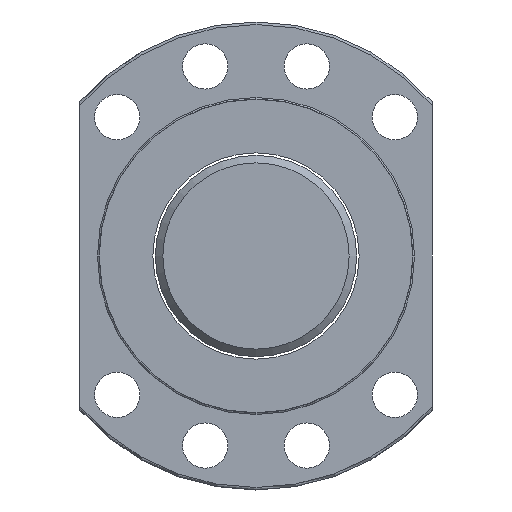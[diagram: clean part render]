
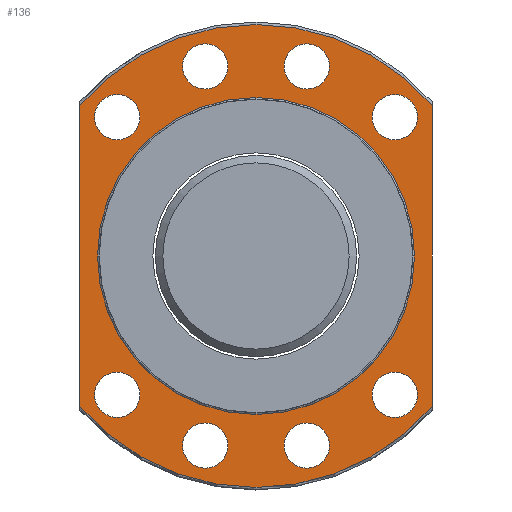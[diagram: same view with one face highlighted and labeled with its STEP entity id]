
A CAD part, left-side view. The second image highlights one B-rep face of the part: STEP entity #136.
In plain terms, the highlighted planar face has unit normal (-1, 0, 0).
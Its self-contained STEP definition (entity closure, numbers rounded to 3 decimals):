
#136=ADVANCED_FACE('',(#221,#222,#223,#224,#225,#226,#227,#228,#229,#185),
#173,.T.);
#173=PLANE('',#644);
#185=FACE_OUTER_BOUND('',#290,.T.);
#205=LINE('',#905,#213);
#206=LINE('',#909,#214);
#213=VECTOR('',#735,1.);
#214=VECTOR('',#738,1.);
#221=FACE_BOUND('',#281,.T.);
#222=FACE_BOUND('',#282,.T.);
#223=FACE_BOUND('',#283,.T.);
#224=FACE_BOUND('',#284,.T.);
#225=FACE_BOUND('',#285,.T.);
#226=FACE_BOUND('',#286,.T.);
#227=FACE_BOUND('',#287,.T.);
#228=FACE_BOUND('',#288,.T.);
#229=FACE_BOUND('',#289,.T.);
#281=EDGE_LOOP('',(#361));
#282=EDGE_LOOP('',(#362));
#283=EDGE_LOOP('',(#363));
#284=EDGE_LOOP('',(#364));
#285=EDGE_LOOP('',(#365));
#286=EDGE_LOOP('',(#366));
#287=EDGE_LOOP('',(#367));
#288=EDGE_LOOP('',(#368));
#289=EDGE_LOOP('',(#369));
#290=EDGE_LOOP('',(#370,#371,#372,#373));
#361=ORIENTED_EDGE('',*,*,#530,.T.);
#362=ORIENTED_EDGE('',*,*,#531,.F.);
#363=ORIENTED_EDGE('',*,*,#532,.F.);
#364=ORIENTED_EDGE('',*,*,#533,.F.);
#365=ORIENTED_EDGE('',*,*,#534,.F.);
#366=ORIENTED_EDGE('',*,*,#535,.F.);
#367=ORIENTED_EDGE('',*,*,#536,.F.);
#368=ORIENTED_EDGE('',*,*,#537,.F.);
#369=ORIENTED_EDGE('',*,*,#538,.F.);
#370=ORIENTED_EDGE('',*,*,#539,.F.);
#371=ORIENTED_EDGE('',*,*,#540,.T.);
#372=ORIENTED_EDGE('',*,*,#541,.F.);
#373=ORIENTED_EDGE('',*,*,#542,.F.);
#479=VERTEX_POINT('',#885);
#480=VERTEX_POINT('',#887);
#481=VERTEX_POINT('',#889);
#482=VERTEX_POINT('',#891);
#483=VERTEX_POINT('',#893);
#484=VERTEX_POINT('',#895);
#485=VERTEX_POINT('',#897);
#486=VERTEX_POINT('',#899);
#487=VERTEX_POINT('',#901);
#488=VERTEX_POINT('',#903);
#489=VERTEX_POINT('',#904);
#490=VERTEX_POINT('',#906);
#491=VERTEX_POINT('',#908);
#530=EDGE_CURVE('',#479,#479,#589,.T.);
#531=EDGE_CURVE('',#480,#480,#590,.T.);
#532=EDGE_CURVE('',#481,#481,#591,.T.);
#533=EDGE_CURVE('',#482,#482,#592,.T.);
#534=EDGE_CURVE('',#483,#483,#593,.T.);
#535=EDGE_CURVE('',#484,#484,#594,.T.);
#536=EDGE_CURVE('',#485,#485,#595,.T.);
#537=EDGE_CURVE('',#486,#486,#596,.T.);
#538=EDGE_CURVE('',#487,#487,#597,.T.);
#539=EDGE_CURVE('',#488,#489,#598,.T.);
#540=EDGE_CURVE('',#488,#490,#205,.T.);
#541=EDGE_CURVE('',#491,#490,#599,.T.);
#542=EDGE_CURVE('',#489,#491,#206,.T.);
#589=CIRCLE('',#633,31.5);
#590=CIRCLE('',#634,4.5);
#591=CIRCLE('',#635,4.5);
#592=CIRCLE('',#636,4.5);
#593=CIRCLE('',#637,4.5);
#594=CIRCLE('',#638,4.5);
#595=CIRCLE('',#639,4.5);
#596=CIRCLE('',#640,4.5);
#597=CIRCLE('',#641,4.5);
#598=CIRCLE('',#642,46.);
#599=CIRCLE('',#643,46.);
#633=AXIS2_PLACEMENT_3D('',#884,#715,#716);
#634=AXIS2_PLACEMENT_3D('',#886,#717,#718);
#635=AXIS2_PLACEMENT_3D('',#888,#719,#720);
#636=AXIS2_PLACEMENT_3D('',#890,#721,#722);
#637=AXIS2_PLACEMENT_3D('',#892,#723,#724);
#638=AXIS2_PLACEMENT_3D('',#894,#725,#726);
#639=AXIS2_PLACEMENT_3D('',#896,#727,#728);
#640=AXIS2_PLACEMENT_3D('',#898,#729,#730);
#641=AXIS2_PLACEMENT_3D('',#900,#731,#732);
#642=AXIS2_PLACEMENT_3D('',#902,#733,#734);
#643=AXIS2_PLACEMENT_3D('',#907,#736,#737);
#644=AXIS2_PLACEMENT_3D('',#910,#739,#740);
#715=DIRECTION('',(1.,0.,0.));
#716=DIRECTION('',(0.,1.,0.));
#717=DIRECTION('',(-1.,0.,0.));
#718=DIRECTION('',(0.,-1.,0.));
#719=DIRECTION('',(-1.,0.,0.));
#720=DIRECTION('',(0.,-1.,0.));
#721=DIRECTION('',(-1.,0.,0.));
#722=DIRECTION('',(0.,-1.,0.));
#723=DIRECTION('',(-1.,0.,0.));
#724=DIRECTION('',(0.,-1.,0.));
#725=DIRECTION('',(-1.,0.,0.));
#726=DIRECTION('',(0.,-1.,0.));
#727=DIRECTION('',(-1.,0.,0.));
#728=DIRECTION('',(0.,-1.,0.));
#729=DIRECTION('',(-1.,0.,0.));
#730=DIRECTION('',(0.,-1.,0.));
#731=DIRECTION('',(-1.,0.,0.));
#732=DIRECTION('',(0.,-1.,0.));
#733=DIRECTION('',(1.,0.,0.));
#734=DIRECTION('',(0.,1.,0.));
#735=DIRECTION('',(0.,0.,-1.));
#736=DIRECTION('',(1.,0.,0.));
#737=DIRECTION('',(0.,1.,0.));
#738=DIRECTION('',(0.,0.,-1.));
#739=DIRECTION('',(-1.,0.,0.));
#740=DIRECTION('',(0.,-1.,0.));
#884=CARTESIAN_POINT('',(46.81,0.,0.));
#885=CARTESIAN_POINT('',(46.81,31.5,0.));
#886=CARTESIAN_POINT('',(46.81,10.094,37.671));
#887=CARTESIAN_POINT('',(46.81,5.594,37.671));
#888=CARTESIAN_POINT('',(46.81,-10.094,37.671));
#889=CARTESIAN_POINT('',(46.81,-14.594,37.671));
#890=CARTESIAN_POINT('',(46.81,-10.094,-37.671));
#891=CARTESIAN_POINT('',(46.81,-14.594,-37.671));
#892=CARTESIAN_POINT('',(46.81,10.094,-37.671));
#893=CARTESIAN_POINT('',(46.81,5.594,-37.671));
#894=CARTESIAN_POINT('',(46.81,-27.577,-27.577));
#895=CARTESIAN_POINT('',(46.81,-32.077,-27.577));
#896=CARTESIAN_POINT('',(46.81,27.577,-27.577));
#897=CARTESIAN_POINT('',(46.81,23.077,-27.577));
#898=CARTESIAN_POINT('',(46.81,-27.577,27.577));
#899=CARTESIAN_POINT('',(46.81,-32.077,27.577));
#900=CARTESIAN_POINT('',(46.81,27.577,27.577));
#901=CARTESIAN_POINT('',(46.81,23.077,27.577));
#902=CARTESIAN_POINT('',(46.81,0.,0.));
#903=CARTESIAN_POINT('',(46.81,35.,29.85));
#904=CARTESIAN_POINT('',(46.81,-35.,29.85));
#905=CARTESIAN_POINT('',(46.81,35.,0.));
#906=CARTESIAN_POINT('',(46.81,35.,-29.85));
#907=CARTESIAN_POINT('',(46.81,0.,0.));
#908=CARTESIAN_POINT('',(46.81,-35.,-29.85));
#909=CARTESIAN_POINT('',(46.81,-35.,0.));
#910=CARTESIAN_POINT('',(46.81,38.75,0.));
